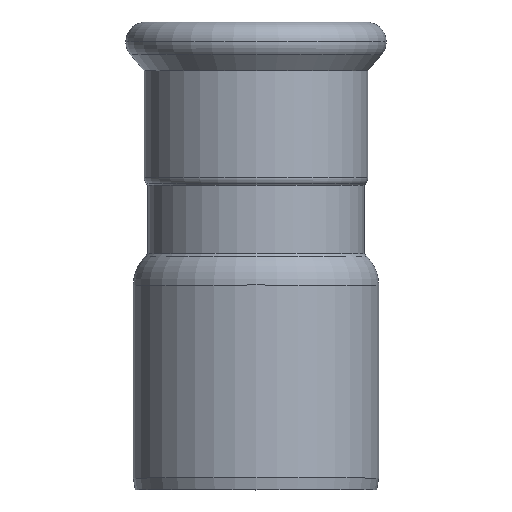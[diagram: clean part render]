
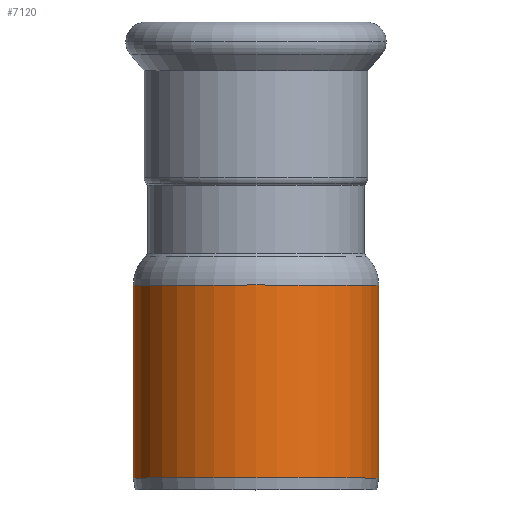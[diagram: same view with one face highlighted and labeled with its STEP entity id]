
A CAD part, top view. The second image highlights one B-rep face of the part: STEP entity #7120.
In plain terms, the highlighted cylindrical face has radius 21 mm (diameter 42 mm), a partial arc.
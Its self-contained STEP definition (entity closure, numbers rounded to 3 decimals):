
#1790=CARTESIAN_POINT('',(-202.976,33.421,0.));
#1800=DIRECTION('',(0.,-1.,0.));
#1810=DIRECTION('',(1.,0.,0.));
#1820=AXIS2_PLACEMENT_3D('',#1790,#1800,#1810);
#1830=CYLINDRICAL_SURFACE('',#1820,21.);
#1840=CARTESIAN_POINT('',(-181.976,33.421,0.));
#1850=DIRECTION('',(0.,-1.,0.));
#1860=VECTOR('',#1850,1.);
#1870=LINE('',#1840,#1860);
#1880=CARTESIAN_POINT('',(-181.976,20.621,0.));
#1890=VERTEX_POINT('',#1880);
#1900=CARTESIAN_POINT('',(-181.976,-12.379,0.));
#1910=VERTEX_POINT('',#1900);
#1920=EDGE_CURVE('',#1890,#1910,#1870,.T.);
#1940=CARTESIAN_POINT('',(-202.976,20.621,0.));
#1950=DIRECTION('',(0.,-1.,0.));
#1960=DIRECTION('',(-1.,0.,0.));
#1970=AXIS2_PLACEMENT_3D('',#1940,#1950,#1960);
#1980=CIRCLE('',#1970,21.);
#1990=CARTESIAN_POINT('',(-223.976,20.621,0.));
#2000=VERTEX_POINT('',#1990);
#2030=CARTESIAN_POINT('',(-223.976,33.421,
0.));
#2040=DIRECTION('',(0.,-1.,0.));
#2050=VECTOR('',#2040,1.);
#2060=LINE('',#2030,#2050);
#2070=CARTESIAN_POINT('',(-223.976,-12.379,
0.));
#2080=VERTEX_POINT('',#2070);
#2090=EDGE_CURVE('',#2000,#2080,#2060,.T.);
#2110=CARTESIAN_POINT('',(-202.976,-12.379,0.));
#2120=DIRECTION('',(0.,-1.,0.));
#2130=DIRECTION('',(-1.,0.,0.));
#2140=AXIS2_PLACEMENT_3D('',#2110,#2120,#2130);
#2150=CIRCLE('',#2140,21.);
#3550=EDGE_CURVE('',#1890,#2000,#1980,.T.);
#6600=EDGE_CURVE('',#1910,#2080,#2150,.T.);
#7060=ORIENTED_EDGE('',*,*,#1920,.F.);
#7070=ORIENTED_EDGE('',*,*,#6600,.F.);
#7080=ORIENTED_EDGE('',*,*,#2090,.T.);
#7090=ORIENTED_EDGE('',*,*,#3550,.T.);
#7100=EDGE_LOOP('',(#7090,#7080,#7070,#7060));
#7110=FACE_OUTER_BOUND('',#7100,.T.);
#7120=ADVANCED_FACE('',(#7110),#1830,.T.);
